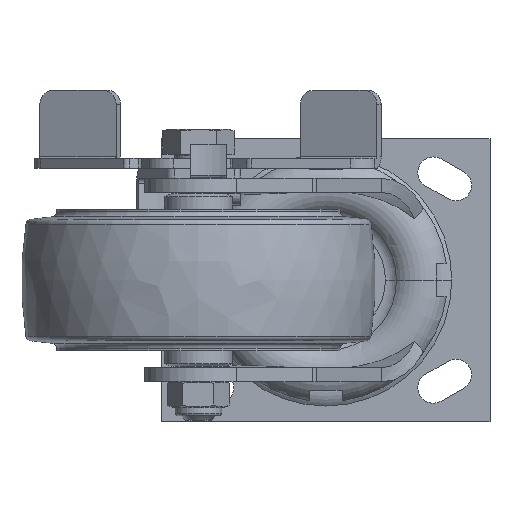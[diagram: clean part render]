
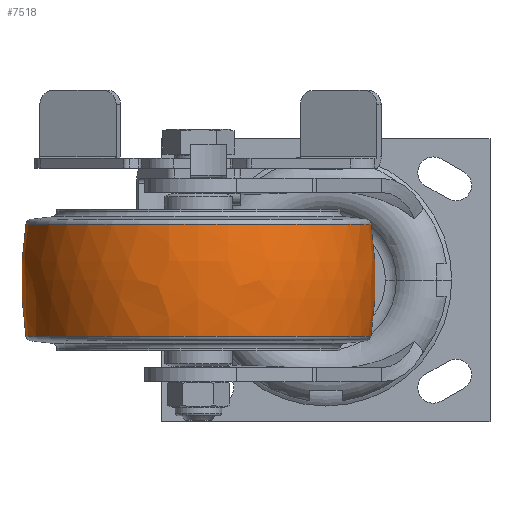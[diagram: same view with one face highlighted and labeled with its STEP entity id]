
A CAD part, front view. The second image highlights one B-rep face of the part: STEP entity #7518.
In plain terms, the highlighted free-form (B-spline) face has degree [3, 3] with [7, 4] control points.
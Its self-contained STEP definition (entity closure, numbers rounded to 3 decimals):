
#7090=CARTESIAN_POINT('',(0.,-64.241,0.));
#7091=DIRECTION('',(0.,0.,1.));
#7092=DIRECTION('',(0.156,0.988,0.));
#7093=AXIS2_PLACEMENT_3D('',#7090,#7091,#7092);
#7095=CARTESIAN_POINT('',(0.,64.241,0.));
#7096=DIRECTION('',(0.,0.,-1.));
#7097=DIRECTION('',(0.156,-0.988,0.));
#7098=AXIS2_PLACEMENT_3D('',#7095,#7096,#7097);
#7100=CARTESIAN_POINT('',(19.804,0.,0.));
#7101=DIRECTION('',(-1.,0.,0.));
#7102=DIRECTION('',(0.,1.,0.));
#7103=AXIS2_PLACEMENT_3D('',#7100,#7101,#7102);
#7115=CARTESIAN_POINT('',(-19.804,0.,0.));
#7116=DIRECTION('',(-1.,0.,0.));
#7117=DIRECTION('',(0.,1.,0.));
#7118=AXIS2_PLACEMENT_3D('',#7115,#7116,#7117);
#7325=CARTESIAN_POINT('',(19.804,60.943,0.));
#7326=VERTEX_POINT('',#7325);
#7327=CARTESIAN_POINT('',(-19.804,60.943,0.));
#7328=VERTEX_POINT('',#7327);
#7357=CARTESIAN_POINT('',(19.804,-60.943,
0.));
#7358=VERTEX_POINT('',#7357);
#7359=CARTESIAN_POINT('',(-19.804,-60.943,
0.));
#7360=VERTEX_POINT('',#7359);
#7482=CARTESIAN_POINT('',(-20.589,-60.696,
3.819));
#7483=CARTESIAN_POINT('',(-6.924,-62.942,
3.96));
#7484=CARTESIAN_POINT('',(6.924,-62.942,3.96));
#7485=CARTESIAN_POINT('',(20.589,-60.696,3.819));
#7486=CARTESIAN_POINT('',(-20.589,-63.046,
-33.534));
#7487=CARTESIAN_POINT('',(-6.924,-65.379,
-34.774));
#7488=CARTESIAN_POINT('',(6.924,-65.379,
-34.774));
#7489=CARTESIAN_POINT('',(20.589,-63.046,
-33.534));
#7490=CARTESIAN_POINT('',(-20.589,-37.426,
-60.816));
#7491=CARTESIAN_POINT('',(-6.924,-38.811,
-63.066));
#7492=CARTESIAN_POINT('',(6.924,-38.811,
-63.066));
#7493=CARTESIAN_POINT('',(20.589,-37.426,
-60.816));
#7494=CARTESIAN_POINT('',(-20.589,0.,
-60.816));
#7495=CARTESIAN_POINT('',(-6.924,0.,
-63.066));
#7496=CARTESIAN_POINT('',(6.924,0.,
-63.066));
#7497=CARTESIAN_POINT('',(20.589,0.,
-60.816));
#7498=CARTESIAN_POINT('',(-20.589,37.426,
-60.816));
#7499=CARTESIAN_POINT('',(-6.924,38.811,
-63.066));
#7500=CARTESIAN_POINT('',(6.924,38.811,-63.066));
#7501=CARTESIAN_POINT('',(20.589,37.426,-60.816));
#7502=CARTESIAN_POINT('',(-20.589,63.046,
-33.534));
#7503=CARTESIAN_POINT('',(-6.924,65.379,
-34.774));
#7504=CARTESIAN_POINT('',(6.924,65.379,-34.774));
#7505=CARTESIAN_POINT('',(20.589,63.046,-33.534));
#7506=CARTESIAN_POINT('',(-20.589,60.696,3.819));
#7507=CARTESIAN_POINT('',(-6.924,62.942,3.96));
#7508=CARTESIAN_POINT('',(6.924,62.942,3.96));
#7509=CARTESIAN_POINT('',(20.589,60.696,3.819));
#7510=(BOUNDED_SURFACE()B_SPLINE_SURFACE(3,3,((#7482,#7483,#7484,#7485),(#7486,
#7487,#7488,#7489),(#7490,#7491,#7492,#7493),(#7494,#7495,#7496,#7497),(#7498,
#7499,#7500,#7501),(#7502,#7503,#7504,#7505),(#7506,#7507,#7508,#7509)),
.UNSPECIFIED.,.F.,.F.,.F.)B_SPLINE_SURFACE_WITH_KNOTS((4,3,4),(4,4),(0.,1.,
2.),(0.,1.),.UNSPECIFIED.)GEOMETRIC_REPRESENTATION_ITEM()RATIONAL_B_SPLINE_SURFACE(((1.195,1.185,1.185,1.195),(
0.944,0.935,0.935,0.944),(
0.944,0.935,0.935,0.944),(
1.195,1.185,1.185,1.195),(
0.944,0.935,0.935,0.944),(
0.944,0.935,0.935,0.944),(
1.195,1.185,1.185,1.195)))REPRESENTATION_ITEM('')SURFACE());
#7511=ORIENTED_EDGE('',*,*,#7472,.T.);
#7513=ORIENTED_EDGE('',*,*,#7512,.T.);
#7514=ORIENTED_EDGE('',*,*,#7475,.F.);
#7515=ORIENTED_EDGE('',*,*,#7422,.F.);
#7516=EDGE_LOOP('',(#7511,#7513,#7514,#7515));
#7517=FACE_OUTER_BOUND('',#7516,.F.);
#7094=CIRCLE('',#7093,126.741);
#7099=CIRCLE('',#7098,126.741);
#7104=CIRCLE('',#7103,60.943);
#7119=CIRCLE('',#7118,60.943);
#7422=EDGE_CURVE('',#7326,#7358,#7104,.T.);
#7472=EDGE_CURVE('',#7326,#7328,#7094,.T.);
#7475=EDGE_CURVE('',#7358,#7360,#7099,.T.);
#7512=EDGE_CURVE('',#7328,#7360,#7119,.T.);
#7518=ADVANCED_FACE('',(#7517),#7510,.T.);
